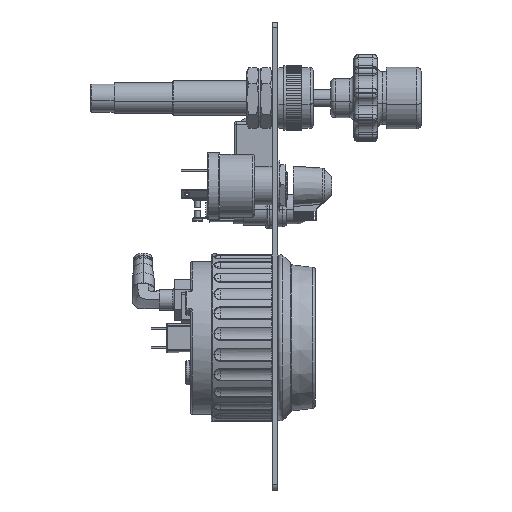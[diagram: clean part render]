
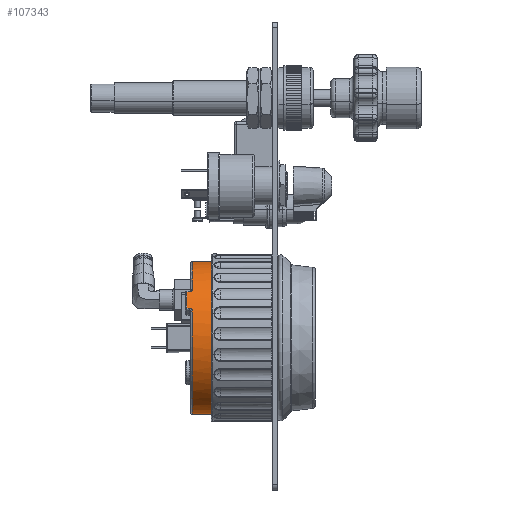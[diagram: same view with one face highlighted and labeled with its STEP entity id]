
A CAD part, left-side view. The second image highlights one B-rep face of the part: STEP entity #107343.
In plain terms, the highlighted cylindrical face has radius 41.465 mm (diameter 82.931 mm), a partial arc.
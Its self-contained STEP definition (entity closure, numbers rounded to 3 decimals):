
#577 = VERTEX_POINT ( 'NONE', #105061 ) ;
#773 = EDGE_CURVE ( 'NONE', #100059, #577, #42501, .T. ) ;
#1392 = CARTESIAN_POINT ( 'NONE',  ( 55.822, 48.044, -146.446 ) ) ;
#1674 = CARTESIAN_POINT ( 'NONE',  ( 55.822, 47.244, -146.446 ) ) ;
#1728 = ORIENTED_EDGE ( 'NONE', *, *, #118595, .F. ) ;
#2480 = DIRECTION ( 'NONE',  ( 0., 1., 0. ) ) ;
#3322 = VERTEX_POINT ( 'NONE', #153350 ) ;
#4968 = CARTESIAN_POINT ( 'NONE',  ( 55.822, 48.044, -146.446 ) ) ;
#5010 = CARTESIAN_POINT ( 'NONE',  ( 50.707, 47.244, -155.306 ) ) ;
#5986 = CARTESIAN_POINT ( 'NONE',  ( 55.957, 47.231, -146.268 ) ) ;
#8011 = CARTESIAN_POINT ( 'NONE',  ( 50.247, 46.485, -156.437 ) ) ;
#10308 = ORIENTED_EDGE ( 'NONE', *, *, #135932, .T. ) ;
#13247 = EDGE_CURVE ( 'NONE', #100059, #86109, #36034, .T. ) ;
#13502 = CARTESIAN_POINT ( 'NONE',  ( 88.9, 49.39, -171.45 ) ) ;
#13557 = DIRECTION ( 'NONE',  ( 0., 1., 0. ) ) ;
#14869 = CIRCLE ( 'NONE', #140927, 41.465 ) ;
#16564 = CARTESIAN_POINT ( 'NONE',  ( 88.9, 46.444, -171.45 ) ) ;
#17408 = CARTESIAN_POINT ( 'NONE',  ( 55.822, 47.829, -146.446 ) ) ;
#17946 = CARTESIAN_POINT ( 'NONE',  ( 56.074, 46.977, -146.116 ) ) ;
#19976 = CARTESIAN_POINT ( 'NONE',  ( 50.46, 46.758, -155.9 ) ) ;
#22647 = VERTEX_POINT ( 'NONE', #1392 ) ;
#22835 = ORIENTED_EDGE ( 'NONE', *, *, #114513, .T. ) ;
#25459 = DIRECTION ( 'NONE',  ( 0., 0., 1. ) ) ;
#28514 = CARTESIAN_POINT ( 'NONE',  ( 88.9, 28.194, -212.915 ) ) ;
#28525 = DIRECTION ( 'NONE',  ( 0., 0., -1. ) ) ;
#29884 = CARTESIAN_POINT ( 'NONE',  ( 56.22, 46.763, -145.928 ) ) ;
#31910 = CARTESIAN_POINT ( 'NONE',  ( 50.574, 47.059, -155.623 ) ) ;
#32080 = B_SPLINE_CURVE_WITH_KNOTS ( 'NONE', 3,
 ( #4968, #17408, #148344, #77084, #5986, #89068, #17946, #101057, #29884, #112930, #41770, #124942, #53664, #136914, #65696, #148839 ),
 .UNSPECIFIED., .F., .F.,
 ( 4, 2, 2, 2, 2, 2, 2, 4 ),
 ( 0., 0.001, 0.001, 0.001, 0.002, 0.002, 0.002, 0.003 ),
 .UNSPECIFIED. ) ;
#32947 = ORIENTED_EDGE ( 'NONE', *, *, #147783, .T. ) ;
#33467 = ORIENTED_EDGE ( 'NONE', *, *, #102327, .T. ) ;
#33713 = DIRECTION ( 'NONE',  ( 0., 0., -1. ) ) ;
#34920 = CYLINDRICAL_SURFACE ( 'NONE', #152007, 41.465 ) ;
#36034 = LINE ( 'NONE', #67691, #127151 ) ;
#40272 = ORIENTED_EDGE ( 'NONE', *, *, #153740, .F. ) ;
#40599 = VECTOR ( 'NONE', #13557, 1000. ) ;
#40849 = VECTOR ( 'NONE', #128446, 1000. ) ;
#41770 = CARTESIAN_POINT ( 'NONE',  ( 56.388, 46.601, -145.713 ) ) ;
#42501 = CIRCLE ( 'NONE', #73518, 41.465 ) ;
#43161 = VERTEX_POINT ( 'NONE', #106387 ) ;
#43784 = CARTESIAN_POINT ( 'NONE',  ( 50.64, 47.326, -155.463 ) ) ;
#48733 = ORIENTED_EDGE ( 'NONE', *, *, #773, .T. ) ;
#50130 = DIRECTION ( 'NONE',  ( 0., 0., -1. ) ) ;
#53664 = CARTESIAN_POINT ( 'NONE',  ( 56.576, 46.493, -145.477 ) ) ;
#55222 = CARTESIAN_POINT ( 'NONE',  ( 50.095, 46.444, -156.837 ) ) ;
#55739 = CARTESIAN_POINT ( 'NONE',  ( 50.686, 47.624, -155.355 ) ) ;
#56167 = VECTOR ( 'NONE', #88068, 1000. ) ;
#58382 = DIRECTION ( 'NONE',  ( 0., -1., 0. ) ) ;
#63309 = CARTESIAN_POINT ( 'NONE',  ( 55.822, 49.39, -146.446 ) ) ;
#65696 = CARTESIAN_POINT ( 'NONE',  ( 56.774, 46.444, -145.233 ) ) ;
#67239 = CARTESIAN_POINT ( 'NONE',  ( 50.171, 46.444, -156.636 ) ) ;
#67691 = CARTESIAN_POINT ( 'NONE',  ( 88.9, 47.244, -212.915 ) ) ;
#67743 = CARTESIAN_POINT ( 'NONE',  ( 50.707, 47.937, -155.306 ) ) ;
#69686 = CARTESIAN_POINT ( 'NONE',  ( 88.9, 47.244, -129.985 ) ) ;
#70056 = DIRECTION ( 'NONE',  ( 0., 1., 0. ) ) ;
#73518 = AXIS2_PLACEMENT_3D ( 'NONE', #153309, #70056, #33713 ) ;
#73553 = CARTESIAN_POINT ( 'NONE',  ( 88.9, 47.244, -171.45 ) ) ;
#74515 = ORIENTED_EDGE ( 'NONE', *, *, #105186, .T. ) ;
#76176 = LINE ( 'NONE', #69686, #40849 ) ;
#77084 = CARTESIAN_POINT ( 'NONE',  ( 55.925, 47.325, -146.309 ) ) ;
#86109 = VERTEX_POINT ( 'NONE', #149744 ) ;
#86607 = VERTEX_POINT ( 'NONE', #145963 ) ;
#88068 = DIRECTION ( 'NONE',  ( 0., -1., 0. ) ) ;
#89068 = CARTESIAN_POINT ( 'NONE',  ( 56.031, 47.057, -146.171 ) ) ;
#90393 = CARTESIAN_POINT ( 'NONE',  ( 56.842, 46.444, -145.151 ) ) ;
#91100 = CARTESIAN_POINT ( 'NONE',  ( 50.392, 46.641, -156.071 ) ) ;
#96626 = DIRECTION ( 'NONE',  ( 0., -1., 0. ) ) ;
#99677 = DIRECTION ( 'NONE',  ( 0., -1., 0. ) ) ;
#100059 = VERTEX_POINT ( 'NONE', #28514 ) ;
#101057 = CARTESIAN_POINT ( 'NONE',  ( 56.167, 46.83, -145.995 ) ) ;
#102327 = EDGE_CURVE ( 'NONE', #577, #86607, #76176, .T. ) ;
#102828 = CIRCLE ( 'NONE', #151845, 41.465 ) ;
#103080 = CARTESIAN_POINT ( 'NONE',  ( 50.547, 46.977, -155.688 ) ) ;
#103323 = AXIS2_PLACEMENT_3D ( 'NONE', #129627, #58382, #141579 ) ;
#104700 = VERTEX_POINT ( 'NONE', #90393 ) ;
#105061 = CARTESIAN_POINT ( 'NONE',  ( 88.9, 28.194, -129.984 ) ) ;
#105186 = EDGE_CURVE ( 'NONE', #133379, #3322, #102828, .T. ) ;
#106387 = CARTESIAN_POINT ( 'NONE',  ( 50.707, 48.044, -155.306 ) ) ;
#107343 = ADVANCED_FACE ( 'NONE', ( #109299 ), #34920, .T. ) ;
#109299 = FACE_OUTER_BOUND ( 'NONE', #119295, .T. ) ;
#112930 = CARTESIAN_POINT ( 'NONE',  ( 56.33, 46.649, -145.787 ) ) ;
#113829 = ORIENTED_EDGE ( 'NONE', *, *, #13247, .F. ) ;
#114513 = EDGE_CURVE ( 'NONE', #22647, #133379, #131759, .T. ) ;
#114999 = CARTESIAN_POINT ( 'NONE',  ( 50.62, 47.234, -155.511 ) ) ;
#117535 = ORIENTED_EDGE ( 'NONE', *, *, #153108, .T. ) ;
#118595 = EDGE_CURVE ( 'NONE', #148976, #43161, #123118, .T. ) ;
#119295 = EDGE_LOOP ( 'NONE', ( #48733, #33467, #32947, #40272, #22835, #74515, #10308, #1728, #117535, #113829 ) ) ;
#119441 = LINE ( 'NONE', #5010, #56167 ) ;
#123118 = B_SPLINE_CURVE_WITH_KNOTS ( 'NONE', 3,
 ( #55222, #67239, #8011, #91100, #19976, #103080, #31910, #114999, #43784, #126970, #55739, #138961, #67743, #150955 ),
 .UNSPECIFIED., .F., .F.,
 ( 4, 2, 2, 2, 2, 2, 4 ),
 ( 0., 0.001, 0.001, 0.002, 0.002, 0.002, 0.003 ),
 .UNSPECIFIED. ) ;
#124942 = CARTESIAN_POINT ( 'NONE',  ( 56.512, 46.523, -145.558 ) ) ;
#126970 = CARTESIAN_POINT ( 'NONE',  ( 50.673, 47.521, -155.385 ) ) ;
#127151 = VECTOR ( 'NONE', #150907, 1000. ) ;
#128269 = CIRCLE ( 'NONE', #103323, 41.465 ) ;
#128446 = DIRECTION ( 'NONE',  ( 0., 1., 0. ) ) ;
#129627 = CARTESIAN_POINT ( 'NONE',  ( 88.9, 46.444, -171.45 ) ) ;
#131759 = LINE ( 'NONE', #1674, #40599 ) ;
#133379 = VERTEX_POINT ( 'NONE', #63309 ) ;
#135932 = EDGE_CURVE ( 'NONE', #3322, #43161, #119441, .T. ) ;
#136914 = CARTESIAN_POINT ( 'NONE',  ( 56.707, 46.454, -145.315 ) ) ;
#138961 = CARTESIAN_POINT ( 'NONE',  ( 50.702, 47.831, -155.316 ) ) ;
#140927 = AXIS2_PLACEMENT_3D ( 'NONE', #16564, #99677, #28525 ) ;
#141579 = DIRECTION ( 'NONE',  ( 0., 0., -1. ) ) ;
#144199 = CARTESIAN_POINT ( 'NONE',  ( 50.095, 46.444, -156.837 ) ) ;
#145963 = CARTESIAN_POINT ( 'NONE',  ( 88.9, 46.444, -129.984 ) ) ;
#147783 = EDGE_CURVE ( 'NONE', #86607, #104700, #128269, .T. ) ;
#148344 = CARTESIAN_POINT ( 'NONE',  ( 55.849, 47.616, -146.41 ) ) ;
#148839 = CARTESIAN_POINT ( 'NONE',  ( 56.842, 46.444, -145.151 ) ) ;
#148976 = VERTEX_POINT ( 'NONE', #144199 ) ;
#149744 = CARTESIAN_POINT ( 'NONE',  ( 88.9, 46.444, -212.915 ) ) ;
#150907 = DIRECTION ( 'NONE',  ( 0., 1., 0. ) ) ;
#150955 = CARTESIAN_POINT ( 'NONE',  ( 50.707, 48.044, -155.306 ) ) ;
#151845 = AXIS2_PLACEMENT_3D ( 'NONE', #13502, #96626, #25459 ) ;
#152007 = AXIS2_PLACEMENT_3D ( 'NONE', #73553, #2480, #50130 ) ;
#153108 = EDGE_CURVE ( 'NONE', #148976, #86109, #14869, .T. ) ;
#153309 = CARTESIAN_POINT ( 'NONE',  ( 88.9, 28.194, -171.45 ) ) ;
#153350 = CARTESIAN_POINT ( 'NONE',  ( 50.707, 49.39, -155.306 ) ) ;
#153740 = EDGE_CURVE ( 'NONE', #22647, #104700, #32080, .T. ) ;
